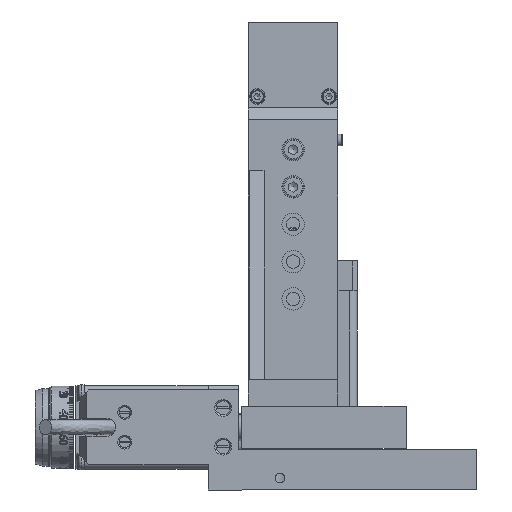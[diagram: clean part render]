
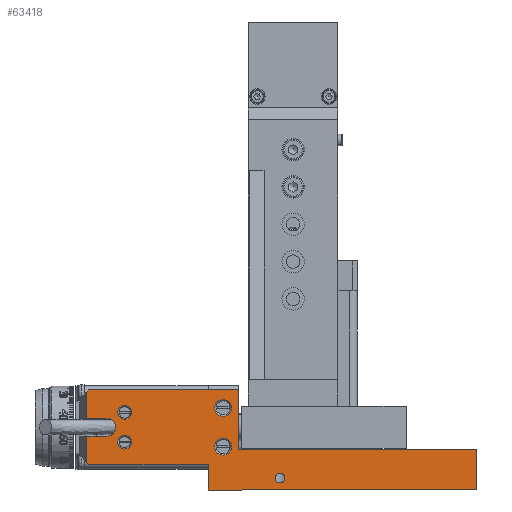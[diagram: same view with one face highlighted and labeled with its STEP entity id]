
A CAD part, left-side view. The second image highlights one B-rep face of the part: STEP entity #63418.
In plain terms, the highlighted planar face has unit normal (-1, 0, 0).
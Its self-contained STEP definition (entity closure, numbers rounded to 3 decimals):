
#2748=LINE($,#86456,#7073);
#4330=LINE($,#158155,#8655);
#4385=LINE($,#158483,#8710);
#4389=LINE($,#158490,#8714);
#4390=LINE($,#158494,#8715);
#4394=LINE($,#158501,#8719);
#4397=LINE($,#158509,#8722);
#4401=LINE($,#158515,#8726);
#4413=LINE($,#158543,#8738);
#4414=LINE($,#158546,#8739);
#6706=LINE($,#234928,#11031);
#6708=LINE($,#234961,#11033);
#6713=LINE($,#234971,#11038);
#7073=VECTOR($,#71271,6.691);
#8655=VECTOR($,#75703,8.5);
#8710=VECTOR($,#75922,0.977);
#8714=VECTOR($,#75930,8.809);
#8715=VECTOR($,#75933,0.977);
#8719=VECTOR($,#75939,50.);
#8722=VECTOR($,#75948,6.691);
#8726=VECTOR($,#75954,8.809);
#8738=VECTOR($,#75972,20.);
#8739=VECTOR($,#75977,40.);
#11031=VECTOR($,#83167,13.5);
#11033=VECTOR($,#83201,90.);
#11038=VECTOR($,#83210,80.);
#13909=PLANE($,#68728);
#15802=FACE_BOUND($,#23777,.T.);
#15803=FACE_BOUND($,#23778,.T.);
#15804=FACE_BOUND($,#23779,.T.);
#15805=FACE_BOUND($,#23780,.T.);
#15806=FACE_BOUND($,#23781,.T.);
#15807=FACE_BOUND($,#23782,.T.);
#23777=EDGE_LOOP($,(#58464));
#23778=EDGE_LOOP($,(#58465));
#23779=EDGE_LOOP($,(#58466));
#23780=EDGE_LOOP($,(#58467));
#23781=EDGE_LOOP($,(#58468));
#23782=EDGE_LOOP($,(#58469,#58470,#58471,#58472,#58473,#58474,#58475,#58476,
#58477,#58478,#58479,#58480,#58481,#58482));
#25221=CIRCLE($,#66224,2.8);
#25226=CIRCLE($,#66230,2.3);
#25231=CIRCLE($,#66236,2.3);
#25236=CIRCLE($,#66242,2.8);
#25241=CIRCLE($,#66253,3.);
#26207=CIRCLE($,#68729,1.621);
#26958=VERTEX_POINT($,#86453);
#26959=VERTEX_POINT($,#86455);
#29015=VERTEX_POINT($,#158145);
#29018=VERTEX_POINT($,#158153);
#29070=VERTEX_POINT($,#158372);
#29079=VERTEX_POINT($,#158399);
#29088=VERTEX_POINT($,#158426);
#29097=VERTEX_POINT($,#158453);
#29106=VERTEX_POINT($,#158480);
#29107=VERTEX_POINT($,#158482);
#29109=VERTEX_POINT($,#158492);
#29110=VERTEX_POINT($,#158493);
#29112=VERTEX_POINT($,#158500);
#29113=VERTEX_POINT($,#158504);
#29114=VERTEX_POINT($,#158508);
#29119=VERTEX_POINT($,#158522);
#32186=VERTEX_POINT($,#234921);
#32189=VERTEX_POINT($,#234926);
#32211=VERTEX_POINT($,#234980);
#33268=EDGE_CURVE($,#26959,#26958,#2748,.T.);
#36364=EDGE_CURVE($,#29015,#29018,#4330,.T.);
#36447=EDGE_CURVE($,#29070,#29070,#25221,.T.);
#36456=EDGE_CURVE($,#29079,#29079,#25226,.T.);
#36465=EDGE_CURVE($,#29088,#29088,#25231,.T.);
#36474=EDGE_CURVE($,#29097,#29097,#25236,.T.);
#36484=EDGE_CURVE($,#29106,#29107,#4385,.T.);
#36488=EDGE_CURVE($,#26958,#29107,#4389,.T.);
#36489=EDGE_CURVE($,#29109,#29110,#4390,.T.);
#36493=EDGE_CURVE($,#29110,#29112,#4394,.T.);
#36495=EDGE_CURVE($,#29113,#26959,#25241,.T.);
#36497=EDGE_CURVE($,#29114,#29113,#4397,.T.);
#36501=EDGE_CURVE($,#29109,#29114,#4401,.T.);
#36515=EDGE_CURVE($,#29119,#29112,#4413,.T.);
#36516=EDGE_CURVE($,#29015,#29106,#4414,.T.);
#41039=EDGE_CURVE($,#32189,#32186,#6706,.T.);
#41056=EDGE_CURVE($,#32186,#29018,#6708,.T.);
#41061=EDGE_CURVE($,#29119,#32189,#6713,.T.);
#41066=EDGE_CURVE($,#32211,#32211,#26207,.T.);
#58464=ORIENTED_EDGE($,*,*,#36474,.T.);
#58465=ORIENTED_EDGE($,*,*,#36447,.T.);
#58466=ORIENTED_EDGE($,*,*,#36456,.T.);
#58467=ORIENTED_EDGE($,*,*,#36465,.T.);
#58468=ORIENTED_EDGE($,*,*,#41066,.T.);
#58469=ORIENTED_EDGE($,*,*,#41056,.F.);
#58470=ORIENTED_EDGE($,*,*,#41039,.F.);
#58471=ORIENTED_EDGE($,*,*,#41061,.F.);
#58472=ORIENTED_EDGE($,*,*,#36515,.T.);
#58473=ORIENTED_EDGE($,*,*,#36493,.F.);
#58474=ORIENTED_EDGE($,*,*,#36489,.F.);
#58475=ORIENTED_EDGE($,*,*,#36501,.T.);
#58476=ORIENTED_EDGE($,*,*,#36497,.T.);
#58477=ORIENTED_EDGE($,*,*,#36495,.T.);
#58478=ORIENTED_EDGE($,*,*,#33268,.T.);
#58479=ORIENTED_EDGE($,*,*,#36488,.T.);
#58480=ORIENTED_EDGE($,*,*,#36484,.F.);
#58481=ORIENTED_EDGE($,*,*,#36516,.F.);
#58482=ORIENTED_EDGE($,*,*,#36364,.T.);
#63418=ADVANCED_FACE($,(#15802,#15803,#15804,#15805,#15806,#15807),#13909,
 .T.);
#66224=AXIS2_PLACEMENT_3D($,#158373,#75873,#75874);
#66230=AXIS2_PLACEMENT_3D($,#158400,#75885,#75886);
#66236=AXIS2_PLACEMENT_3D($,#158427,#75897,#75898);
#66242=AXIS2_PLACEMENT_3D($,#158454,#75909,#75910);
#66253=AXIS2_PLACEMENT_3D($,#158505,#75943,#75944);
#68728=AXIS2_PLACEMENT_3D($,#234979,#83215,#83216);
#68729=AXIS2_PLACEMENT_3D($,#234981,#83217,#83218);
#71271=DIRECTION($,(0.,1.,0.));
#75703=DIRECTION($,(0.,0.,-1.));
#75873=DIRECTION('center_axis',(1.,0.,0.));
#75874=DIRECTION('ref_axis',(0.,1.,0.));
#75885=DIRECTION('center_axis',(1.,0.,0.));
#75886=DIRECTION('ref_axis',(0.,1.,0.));
#75897=DIRECTION('center_axis',(1.,0.,0.));
#75898=DIRECTION('ref_axis',(0.,1.,0.));
#75909=DIRECTION('center_axis',(1.,0.,0.));
#75910=DIRECTION('ref_axis',(0.,1.,0.));
#75922=DIRECTION($,(0.,0.707,0.707));
#75930=DIRECTION($,(0.,0.,-1.));
#75933=DIRECTION($,(0.,-0.707,0.707));
#75939=DIRECTION($,(0.,-1.,0.));
#75943=DIRECTION('center_axis',(1.,0.,0.));
#75944=DIRECTION('ref_axis',(0.,0.,
-1.));
#75948=DIRECTION($,(0.,-1.,0.));
#75954=DIRECTION($,(0.,0.,-1.));
#75972=DIRECTION($,(0.,0.,1.));
#75977=DIRECTION($,(0.,1.,0.));
#83167=DIRECTION($,(0.,0.,-1.));
#83201=DIRECTION($,(0.,1.,0.));
#83210=DIRECTION($,(0.,-1.,0.));
#83215=DIRECTION('center_axis',(-1.,0.,0.));
#83216=DIRECTION('ref_axis',(0.,0.,-1.));
#83217=DIRECTION('center_axis',(1.,0.,0.));
#83218=DIRECTION('ref_axis',(0.,-1.,0.));
#86453=CARTESIAN_POINT('',(-8.889,69.415,18.));
#86455=CARTESIAN_POINT('',(-8.889,62.724,18.));
#86456=CARTESIAN_POINT($,(-8.889,40.724,18.));
#158145=CARTESIAN_POINT('',(-8.889,28.724,8.5));
#158153=CARTESIAN_POINT('',(-8.889,28.724,0.));
#158155=CARTESIAN_POINT($,(-8.889,28.724,8.5));
#158372=CARTESIAN_POINT('',(-8.889,26.524,14.5));
#158373=CARTESIAN_POINT('Origin',(-8.889,23.724,14.5));
#158399=CARTESIAN_POINT('',(-8.889,59.024,26.));
#158400=CARTESIAN_POINT('Origin',(-8.889,56.724,26.));
#158426=CARTESIAN_POINT('',(-8.889,59.024,16.));
#158427=CARTESIAN_POINT('Origin',(-8.889,56.724,16.));
#158453=CARTESIAN_POINT('',(-8.889,26.524,27.5));
#158454=CARTESIAN_POINT('Origin',(-8.889,23.724,27.5));
#158480=CARTESIAN_POINT('',(-8.889,68.724,8.5));
#158482=CARTESIAN_POINT('',(-8.889,69.415,9.191));
#158483=CARTESIAN_POINT($,(-8.889,60.099,-0.125));
#158490=CARTESIAN_POINT($,(-8.889,69.415,21.));
#158492=CARTESIAN_POINT('',(-8.889,69.415,32.809));
#158493=CARTESIAN_POINT('',(-8.889,68.724,33.5));
#158494=CARTESIAN_POINT($,(-8.889,60.099,42.125));
#158500=CARTESIAN_POINT('',(-8.889,18.724,33.5));
#158501=CARTESIAN_POINT($,(-8.889,18.724,33.5));
#158504=CARTESIAN_POINT('',(-8.889,62.724,24.));
#158505=CARTESIAN_POINT('Origin',(-8.889,62.724,21.));
#158508=CARTESIAN_POINT('',(-8.889,69.415,24.));
#158509=CARTESIAN_POINT($,(-8.889,47.563,24.));
#158515=CARTESIAN_POINT($,(-8.889,69.415,21.));
#158522=CARTESIAN_POINT('',(-8.889,18.724,13.5));
#158543=CARTESIAN_POINT($,(-8.889,18.724,21.));
#158546=CARTESIAN_POINT($,(-8.889,18.724,8.5));
#234921=CARTESIAN_POINT('',(-8.889,-61.276,0.));
#234926=CARTESIAN_POINT('',(-8.889,-61.276,13.5));
#234928=CARTESIAN_POINT($,(-8.889,-61.276,13.5));
#234961=CARTESIAN_POINT($,(-8.889,-43.276,0.));
#234971=CARTESIAN_POINT($,(-8.889,18.724,13.5));
#234979=CARTESIAN_POINT('Origin',(-8.889,-49.276,13.5));
#234980=CARTESIAN_POINT('',(-8.889,3.103,4.));
#234981=CARTESIAN_POINT('Origin',(-8.889,4.724,4.));
